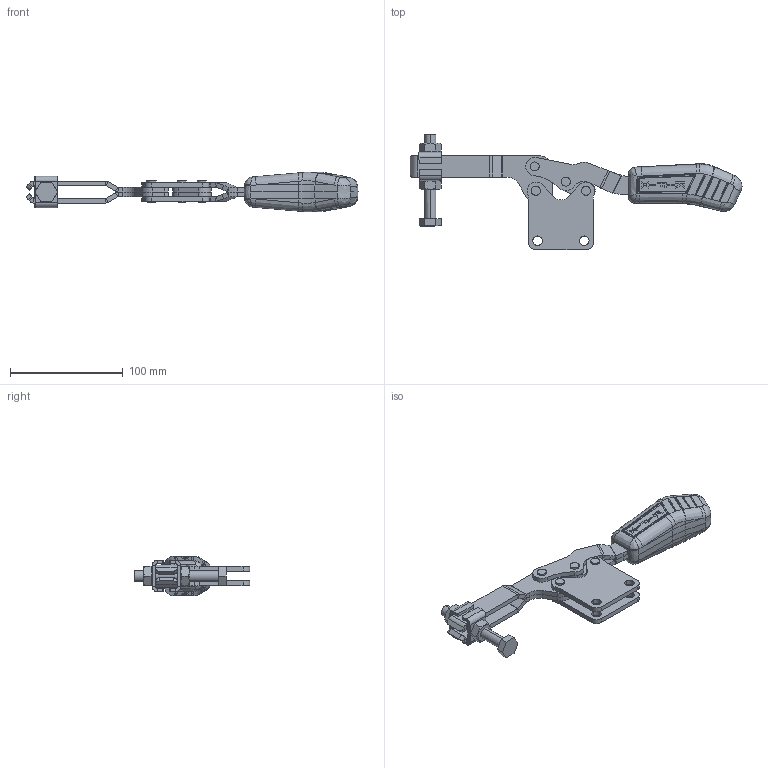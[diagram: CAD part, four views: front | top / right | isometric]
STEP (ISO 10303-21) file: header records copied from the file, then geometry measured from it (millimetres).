
FILE_DESCRIPTION (( 'STEP AP203' ), '1' );
FILE_NAME ('KF-532 R.STEP', '2014-08-18T16:48:26', ( 'Ricardo' ), ( '' ), 'SwSTEP 2.0', 'SolidWorks 2013', '' );
FILE_SCHEMA (( 'CONFIG_CONTROL_DESIGN' ));
Length unit declared in the file: millimetre
Products named in the file (12): 14.10002; 03.13020_Esquerda; 12.50004; 11.50003; KF-532 R; 02.11048_Direita; 08.10039; 01.10077_Direita; 07.60002; 01.10077_Esquerda; 06.50007; 03.13020_Direita
Assembly tree (18 placements, depth 2):
  KF-532 R
    02.11048_Direita  x2
    01.10077_Direita
    01.10077_Esquerda
    03.13020_Direita
    03.13020_Esquerda
    08.10039  x2
    07.60002
    06.50007  x4
    14.10002  x2
    12.50004
    11.50003  x2
Bounding box: 294.39 x 102.52 x 35.03 mm (x, y, z)
Volume: 177057.8 mm3; surface area: 74490.4 mm2
Topology: 18 solids, 18 shells, 768 faces, 1904 edges, 1181 vertices
Faces by surface type: plane 300, cylinder 220, bspline 165, sphere 52, cone 28, torus 3
Entity records: 24991 total; most frequent: CARTESIAN_POINT 9281, ORIENTED_EDGE 3246, DIRECTION 2556, EDGE_CURVE 1623, VERTEX_POINT 1012, AXIS2_PLACEMENT_3D 956, EDGE_LOOP 715, ADVANCED_FACE 656
